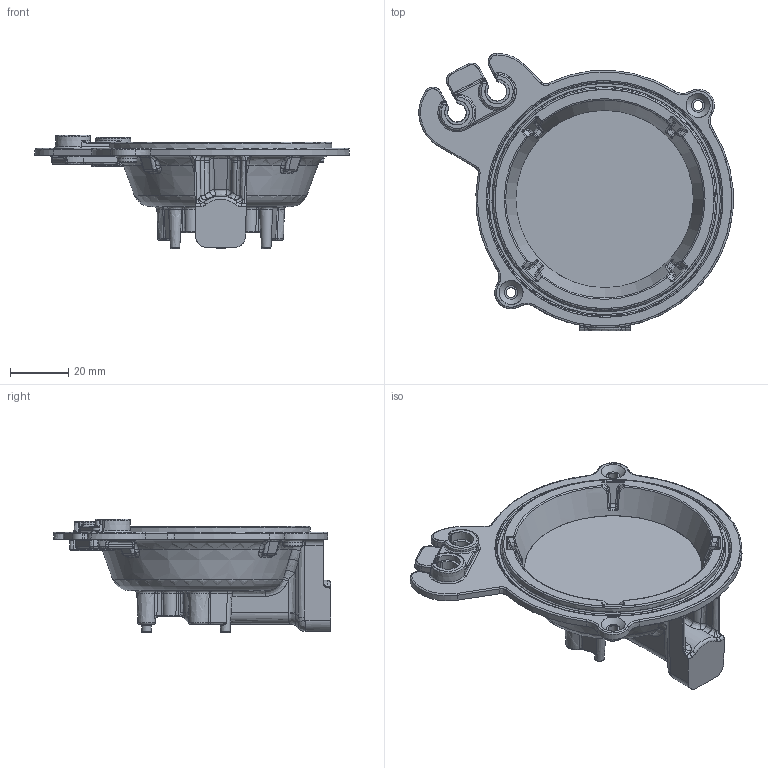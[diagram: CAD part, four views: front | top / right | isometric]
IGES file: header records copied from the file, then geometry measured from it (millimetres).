
Start section: --------------------------------------------------------------------- IGES file generated by CADlook_v12.0.  Visit http://www.cadlook.com for more information on CADlook translators and viewers. ---------------------------------------------------------------------
Global section: file name: X:\progetto-gas\File_clienti\Europa\DC_SerieII\COP-DC_02-A2.igs; native system: Cimatron E 9.0; preprocessor: CADlook_v12.0; author: aquintaba; organization: None; date: 20110119.102954; units: millimetre
Bounding box: 107.57 x 94.86 x 39 mm (x, y, z)
Surface area: 23966.3 mm2 (no closed solid volume)
Topology: 0 solids, 0 shells, 846 faces, 6558 edges, 8593 vertices
Faces by surface type: bspline 468, revolution 378
